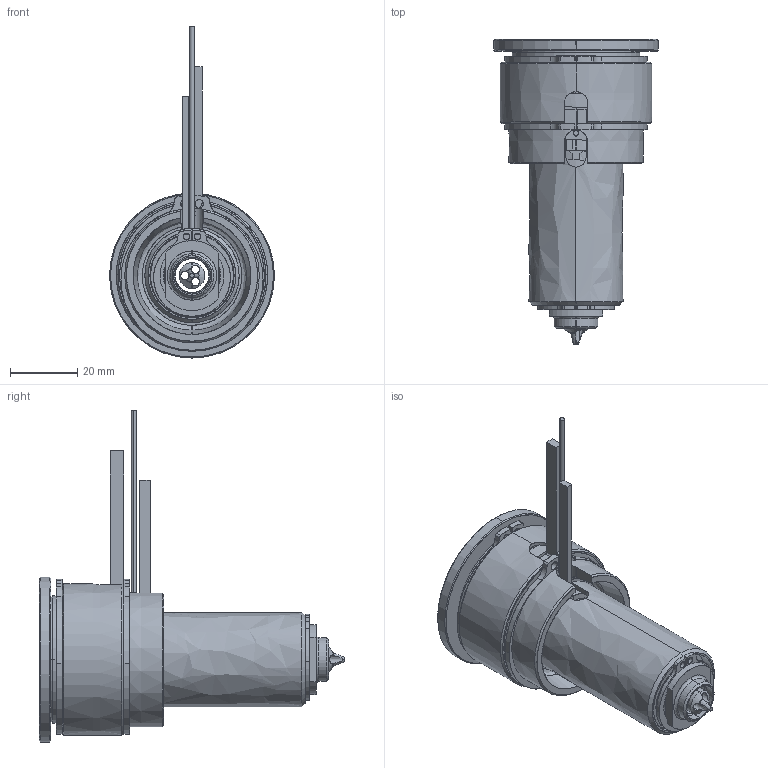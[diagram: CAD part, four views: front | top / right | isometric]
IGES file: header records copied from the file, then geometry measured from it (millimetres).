
Start section: SolidWorks IGES file using analytic representation for surfaces
Global section: file name: C:\Documents and Settings\ws-20\Desktop\TEM\UGEP4501-S-A-0 [Øf-1.31 ØC-10].IGS; native system: SolidWorks 2012; preprocessor: SolidWorks 2012; author: ws-20; date: 120424.090450; units: millimetre
Bounding box: 49 x 90.8 x 98.65 mm (x, y, z)
Surface area: 39871.2 mm2 (no closed solid volume)
Topology: 0 solids, 0 shells, 187 faces, 3587 edges, 3587 vertices
Faces by surface type: revolution 120, bspline 67
